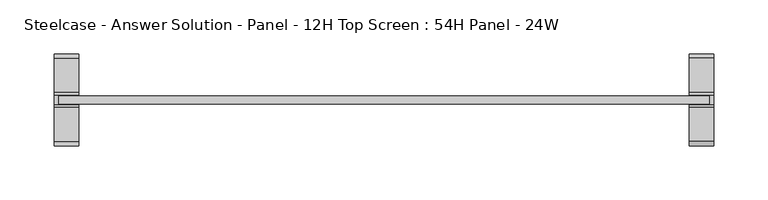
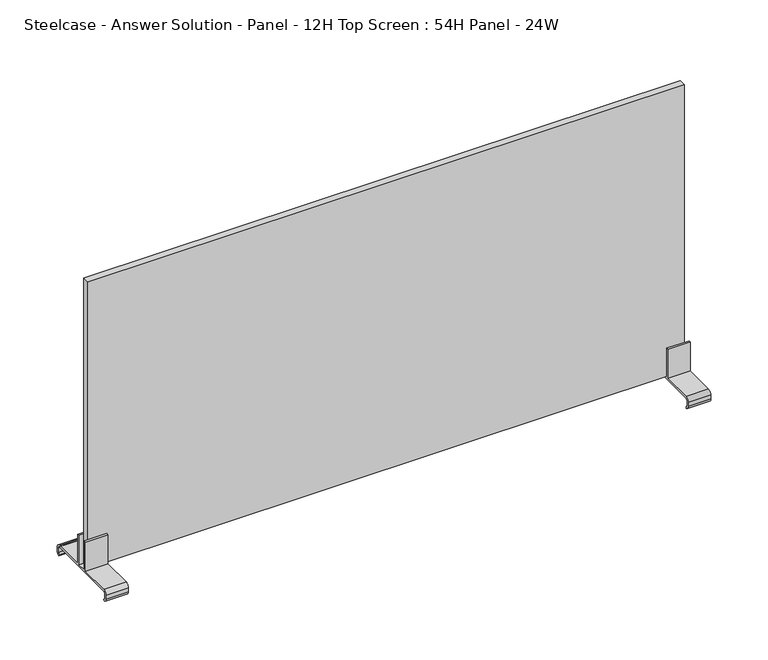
"""IFC4 building model written with IfcOpenShell, lengths in millimetres: furniture geometry, Steelcase - Answer Solution - Panel - 12H Top Screen : 54H Panel - 24W."""

from ifc_helpers import new_model, si_unit, point, frame, frame_2d, origin, place, context, project, spatial, polyline, circle_curve, trimmed, segment, composite_curve, outline, extrude, source, transform, mapped, element, save


def steelcase_answer_solution_panel_12h_top_screen_54h_panel_24w_b133fc0f(model_context):
    return source(origin(), model_context, "Body", "SweptSolid", [
        extrude(outline(polyline([(300.736, -3.683001), (-300.736, -3.683001), (-300.736, 3.683001), (300.736, 3.683001), (300.736, -3.683001)])), frame((0.0, 0.0, 1379.9819981), z_axis=(0.0, 0.0, 1.0), x_axis=(1.0, 0.0, 0.0)), (0.0, 0.0, 1.0), 304.8),
        extrude(outline(composite_curve([segment(trimmed(circle_curve(frame_2d((38.5445, 1376.045)), 1.905), [point((40.4495, 1376.045))], [point((38.5445, 1377.95))], True, "CARTESIAN"), True, "CONTINUOUS"), segment(polyline([(38.5445, 1377.95), (-38.5445, 1377.95)]), True, "CONTINUOUS"), segment(trimmed(circle_curve(frame_2d((-38.5445, 1376.045)), 1.905), [point((-38.5445, 1377.95))], [point((-40.4495, 1376.045))], True, "CARTESIAN"), True, "CONTINUOUS"), segment(polyline([(-40.4495, 1376.045), (-40.4495, 1371.4341187)]), True, "CONTINUOUS"), segment(trimmed(circle_curve(frame_2d((-38.5445, 1371.4341187)), 1.905), [point((-40.4495, 1371.4341187))], [point((-38.6743328, 1369.5335481))], True, "CARTESIAN"), True, "CONTINUOUS"), segment(polyline([(-38.6743328, 1369.5335481), (-39.2392449, 1367.9535566)]), True, "CONTINUOUS"), segment(trimmed(circle_curve(frame_2d((-38.5459934, 1371.8284569)), 3.9364261), [point((-39.2392449, 1367.9535566))], [point((-42.4824195, 1371.8284569))], False, "CARTESIAN"), True, "CONTINUOUS"), segment(polyline([(-42.4824195, 1371.8284569), (-42.4824195, 1376.0452288)]), True, "CONTINUOUS"), segment(trimmed(circle_curve(frame_2d((-38.5459934, 1376.0452288)), 3.9364261), [point((-42.4824195, 1376.0452288))], [point((-38.5459934, 1379.9816549))], False, "CARTESIAN"), True, "CONTINUOUS"), segment(polyline([(-38.5459934, 1379.9816549), (-6.7310004, 1379.9816549), (-6.7310004, 1410.9699952), (-4.699, 1410.9699952), (-4.699, 1379.9819952), (4.699, 1379.9819952), (4.699, 1410.9700048), (6.7310004, 1410.9700048), (6.7310004, 1379.9816549), (38.5459934, 1379.9816549)]), True, "CONTINUOUS"), segment(trimmed(circle_curve(frame_2d((38.5459934, 1376.0452288)), 3.9364261), [point((38.5459934, 1379.9816549))], [point((42.4824195, 1376.0452288))], False, "CARTESIAN"), True, "CONTINUOUS"), segment(polyline([(42.4824195, 1376.0452288), (42.4824195, 1371.8284569)]), True, "CONTINUOUS"), segment(trimmed(circle_curve(frame_2d((38.5459934, 1371.8284569)), 3.9364261), [point((42.4824195, 1371.8284569))], [point((39.6631716, 1368.0538889))], False, "CARTESIAN"), True, "CONTINUOUS"), segment(polyline([(39.6631716, 1368.0538889), (39.1055128, 1369.6135996)]), True, "CONTINUOUS"), segment(trimmed(circle_curve(frame_2d((38.5445, 1371.4341187)), 1.905), [point((39.1055128, 1369.6135996))], [point((40.4495, 1371.4341187))], True, "CARTESIAN"), True, "CONTINUOUS"), segment(polyline([(40.4495, 1371.4341187), (40.4495, 1376.045)]), True, "CONTINUOUS")], self_intersect=False)), frame((282.194, 0.0, 0.0), z_axis=(1.0, 0.0, 0.0), x_axis=(0.0, 1.0, 0.0)), (0.0, 0.0, 1.0), 22.606),
        extrude(outline(composite_curve([segment(trimmed(circle_curve(frame_2d((38.5445, 1376.045)), 1.905), [point((40.4495, 1376.045))], [point((38.5445, 1377.95))], True, "CARTESIAN"), True, "CONTINUOUS"), segment(polyline([(38.5445, 1377.95), (-38.5445, 1377.95)]), True, "CONTINUOUS"), segment(trimmed(circle_curve(frame_2d((-38.5445, 1376.045)), 1.905), [point((-38.5445, 1377.95))], [point((-40.4495, 1376.045))], True, "CARTESIAN"), True, "CONTINUOUS"), segment(polyline([(-40.4495, 1376.045), (-40.4495, 1371.4341187)]), True, "CONTINUOUS"), segment(trimmed(circle_curve(frame_2d((-38.5445, 1371.4341187)), 1.905), [point((-40.4495, 1371.4341187))], [point((-38.6743328, 1369.5335481))], True, "CARTESIAN"), True, "CONTINUOUS"), segment(polyline([(-38.6743328, 1369.5335481), (-39.2392449, 1367.9535566)]), True, "CONTINUOUS"), segment(trimmed(circle_curve(frame_2d((-38.5459934, 1371.8284569)), 3.9364261), [point((-39.2392449, 1367.9535566))], [point((-42.4824195, 1371.8284569))], False, "CARTESIAN"), True, "CONTINUOUS"), segment(polyline([(-42.4824195, 1371.8284569), (-42.4824195, 1376.0452288)]), True, "CONTINUOUS"), segment(trimmed(circle_curve(frame_2d((-38.5459934, 1376.0452288)), 3.9364261), [point((-42.4824195, 1376.0452288))], [point((-38.5459934, 1379.9816549))], False, "CARTESIAN"), True, "CONTINUOUS"), segment(polyline([(-38.5459934, 1379.9816549), (-6.7310004, 1379.9816549), (-6.7310004, 1410.9699952), (-4.699, 1410.9699952), (-4.699, 1379.9819952), (4.699, 1379.9819952), (4.699, 1410.9700048), (6.7310004, 1410.9700048), (6.7310004, 1379.9816549), (38.5459934, 1379.9816549)]), True, "CONTINUOUS"), segment(trimmed(circle_curve(frame_2d((38.5459934, 1376.0452288)), 3.9364261), [point((38.5459934, 1379.9816549))], [point((42.4824195, 1376.0452288))], False, "CARTESIAN"), True, "CONTINUOUS"), segment(polyline([(42.4824195, 1376.0452288), (42.4824195, 1371.8284569)]), True, "CONTINUOUS"), segment(trimmed(circle_curve(frame_2d((38.5459934, 1371.8284569)), 3.9364261), [point((42.4824195, 1371.8284569))], [point((39.6631716, 1368.0538889))], False, "CARTESIAN"), True, "CONTINUOUS"), segment(polyline([(39.6631716, 1368.0538889), (39.1055128, 1369.6135996)]), True, "CONTINUOUS"), segment(trimmed(circle_curve(frame_2d((38.5445, 1371.4341187)), 1.905), [point((39.1055128, 1369.6135996))], [point((40.4495, 1371.4341187))], True, "CARTESIAN"), True, "CONTINUOUS"), segment(polyline([(40.4495, 1371.4341187), (40.4495, 1376.045)]), True, "CONTINUOUS")], self_intersect=False)), frame((-304.8, 0.0, 0.0), z_axis=(1.0, 0.0, 0.0), x_axis=(0.0, 1.0, 0.0)), (0.0, 0.0, 1.0), 22.606),
    ])


if __name__ == "__main__":
    model = new_model("IFC4")
    model_context = context("Model", 3, world=origin())
    ifc_project = project(units=[si_unit("LENGTHUNIT", "METRE", prefix="MILLI")], contexts=[model_context])
    site = spatial("IfcSite", under=ifc_project)
    building = spatial("IfcBuilding", under=site)
    placement = place(None, origin())
    steelcase_answer_solution_panel_12h_top_screen_54h_panel_24w_shape = steelcase_answer_solution_panel_12h_top_screen_54h_panel_24w_b133fc0f(model_context)
    element("IfcFurniture", 1, ObjectType="Steelcase - Answer Solution - Panel - 12H Top Screen : 54H Panel - 24W", at=placement, inside=building, context=model_context, shape_type="MappedRepresentation", body=[
        mapped(steelcase_answer_solution_panel_12h_top_screen_54h_panel_24w_shape, transform((0.0, 0.0, 0.0), x_axis=(1.0, 0.0, 0.0), y_axis=(0.0, 1.0, 0.0), z_axis=(0.0, 0.0, 1.0))),
    ])
    save(model, "model.ifc")
